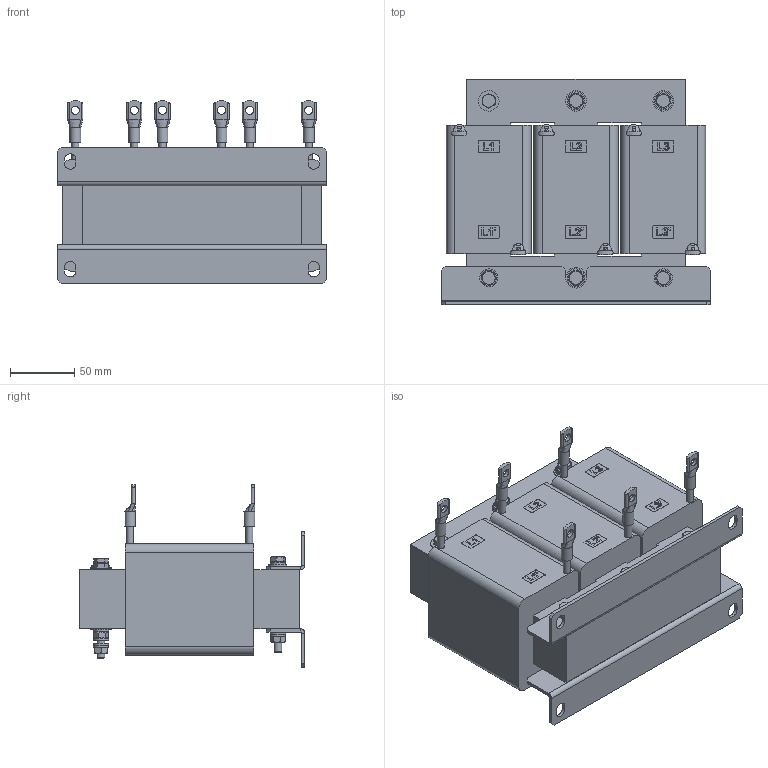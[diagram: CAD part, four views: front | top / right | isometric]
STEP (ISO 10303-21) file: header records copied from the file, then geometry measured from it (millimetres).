
FILE_DESCRIPTION(/* description */ ('raw material description'),/* implementation_level */ '2;1');
FILE_NAME(/* name */ 'P:\Construction\Filter_Marketing\RWK\RWK3044_RWK3062\RWK3044\RWK3044-59-92-E0XXX.stp',/* time_stamp */ '2018-12-10T10:21:35+01:00',/* author */ ('erika.jenzer'),/* organization */ ('Schaffner EMV AG'),/* preprocessor_version */ 'ST-DEVELOPER v16.5',/* originating_system */ 'Autodesk Inventor 2017',/* authorisation */ '');
FILE_SCHEMA (('AUTOMOTIVE_DESIGN { 1 0 10303 214 3 1 1 }'));
Length unit declared in the file: millimetre
Products named in the file (1): RWK3044-59-92-E0XXX
Bounding box: 210 x 176 x 142.4 mm (x, y, z)
Volume: 2335435.7 mm3; surface area: 215865.1 mm2
Topology: 7 solids, 19 shells, 1034 faces, 2597 edges, 1729 vertices
Faces by surface type: plane 688, cylinder 189, cone 82, bspline 74, torus 1
Full cylindrical faces by diameter (mm): 5.459 x6, 5.5 x12, 6 x18, 6.1 x6, 6.4 x20, 7.6 x5, 8.4 x3, 8.5 x10, 8.7 x6, 12 x12, 13 x1, 14 x5, 16 x4
Entity records: 30978 total; most frequent: CARTESIAN_POINT 7685, ORIENTED_EDGE 4854, DIRECTION 4422, EDGE_CURVE 2414, VERTEX_POINT 1696, AXIS2_PLACEMENT_3D 1511, LINE 1400, VECTOR 1400
